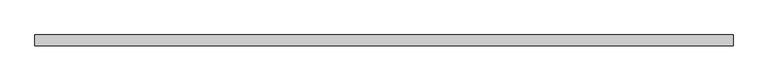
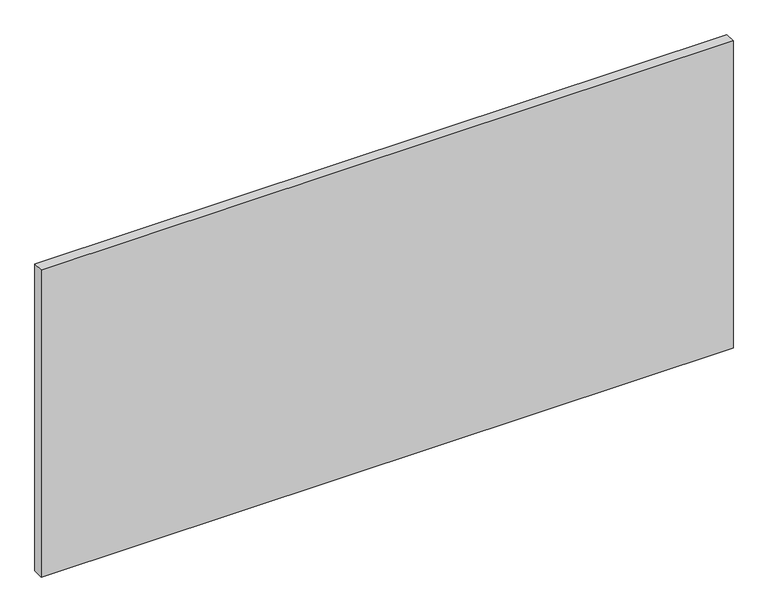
"""IFC4 building model written with IfcOpenShell, lengths in millimetres: plate geometry, 系统嵌板 : 玻璃."""

import ifcopenshell
import ifcopenshell.guid

model = None  # the IFC model being written
_history = None  # IfcOwnerHistory: only IFC2X3 demands one
_inside = {}  # id of a spatial element -> (the spatial element, [elements in it])
_under = {}  # id of a project, library or spatial element -> (it, [spatial elements below it])
_declared = {}  # id of a project -> (the project, [libraries it declares])
_typed = {}  # id of a type object -> (the type object, [elements of that type])
_made_of = {}  # id of a material, layer set ... -> (it, [elements and type objects made of it])


def new_model(schema):
    """Start an empty IFC model of exactly this schema.

    Asked for "IFC4X3", IfcOpenShell would pick the latest addendum, in which some entities
    have other attributes; the version numbers below select the first issue.
    IFC2X3 requires an IfcOwnerHistory on every rooted entity: one is made here for all.
    """
    global model, _history
    if schema == "IFC4X3":
        model = ifcopenshell.file(schema_version=(4, 3, 0, 0))
    else:
        model = ifcopenshell.file(schema=schema)
    _inside.clear()
    _under.clear()
    _declared.clear()
    _typed.clear()
    _made_of.clear()
    _history = None
    if model.schema == "IFC2X3":
        org = make("IfcOrganization", Name="unknown")
        user = make(
            "IfcPersonAndOrganization",
            ThePerson=make("IfcPerson", FamilyName="unknown"),
            TheOrganization=org,
        )
        app = make(
            "IfcApplication",
            ApplicationDeveloper=org,
            Version="unknown",
            ApplicationFullName="unknown",
            ApplicationIdentifier="unknown",
        )
        _history = make(
            "IfcOwnerHistory",
            OwningUser=user,
            OwningApplication=app,
            ChangeAction="ADDED",
            CreationDate=0,
        )
    return model


def make(cls, **values):
    """One entity of the class cls with the attributes given. An attribute that is None is left unset."""
    return model.create_entity(
        cls, **{name: value for name, value in values.items() if value is not None}
    )


def rooted(cls, **values):
    """An entity with a GlobalId (a new one), such as an element, a storey or a relation."""
    return make(cls, GlobalId=ifcopenshell.guid.new(), OwnerHistory=_history, **values)


def si_unit(unit_type, name, prefix=None):
    """IfcSIUnit, for example si_unit("LENGTHUNIT", "METRE", prefix="MILLI")."""
    return make("IfcSIUnit", UnitType=unit_type, Prefix=prefix, Name=name)


def assignment(units):
    """IfcUnitAssignment: the units of a project."""
    return None if units is None else make("IfcUnitAssignment", Units=units)


def point(xyz):
    """IfcCartesianPoint."""
    return None if xyz is None else make("IfcCartesianPoint", Coordinates=xyz)


def direction(xyz):
    """IfcDirection."""
    return None if xyz is None else make("IfcDirection", DirectionRatios=xyz)


def frame(location, z_axis=None, x_axis=None):
    """IfcAxis2Placement3D, a coordinate frame: its origin and axes. An axis left out is left unset."""
    return make(
        "IfcAxis2Placement3D",
        Location=point(location),
        Axis=direction(z_axis),
        RefDirection=direction(x_axis),
    )


def origin():
    """The frame at (0, 0, 0) with its axes left unset."""
    return frame((0.0, 0.0, 0.0))


def origin_with_axes():
    """The frame at (0, 0, 0) with the z axis (0, 0, 1) and the x axis (1, 0, 0) written out."""
    return frame((0.0, 0.0, 0.0), z_axis=(0.0, 0.0, 1.0), x_axis=(1.0, 0.0, 0.0))


def place(relative_to, where):
    """IfcLocalPlacement: puts the frame where relative to a parent placement (None: the world)."""
    return make(
        "IfcLocalPlacement", PlacementRelTo=relative_to, RelativePlacement=where
    )


def context(
    kind, dimensions, precision=None, world=None, true_north=None, identifier=None
):
    """IfcGeometricRepresentationContext, for example the 3D "Model" context."""
    return make(
        "IfcGeometricRepresentationContext",
        ContextIdentifier=identifier,
        ContextType=kind,
        CoordinateSpaceDimension=dimensions,
        Precision=precision,
        WorldCoordinateSystem=world,
        TrueNorth=true_north,
    )


def project(units=None, contexts=None):
    """IfcProject with its units and contexts."""
    return rooted(
        "IfcProject",
        Name="project",
        RepresentationContexts=contexts,
        UnitsInContext=assignment(units),
    )


def spatial(cls, under=None, at=None, **own):
    """A site, building, storey or space (cls), placed at a placement, below another one or the project."""
    s = rooted(cls, ObjectPlacement=at, **own)
    if under is not None:
        _under.setdefault(under.id(), (under, []))[1].append(s)
    return s


def polyline(points):
    """IfcPolyline through the points."""
    return make("IfcPolyline", Points=[point(p) for p in points])


def outline(outer, holes=None, kind="AREA"):
    """IfcArbitraryClosedProfileDef: a profile drawn as a closed curve; with holes, ...WithVoids."""
    if holes is None:
        return make("IfcArbitraryClosedProfileDef", ProfileType=kind, OuterCurve=outer)
    return make(
        "IfcArbitraryProfileDefWithVoids",
        ProfileType=kind,
        OuterCurve=outer,
        InnerCurves=holes,
    )


def extrude(swept, where, along, depth):
    """IfcExtrudedAreaSolid: the profile swept, set in the frame where, extruded along a direction by depth."""
    return make(
        "IfcExtrudedAreaSolid",
        SweptArea=swept,
        Position=where,
        ExtrudedDirection=direction(along),
        Depth=depth,
    )


def shape(context_of_items, identifier, shape_type, items):
    """IfcShapeRepresentation: the items that make up one representation, for example the "Body"."""
    return make(
        "IfcShapeRepresentation",
        ContextOfItems=context_of_items,
        RepresentationIdentifier=identifier,
        RepresentationType=shape_type,
        Items=items,
    )


def source(mapping_origin, context_of_items, identifier, shape_type, items):
    """IfcRepresentationMap: a shape defined once, which mapped items show again and again."""
    return make(
        "IfcRepresentationMap",
        MappingOrigin=mapping_origin,
        MappedRepresentation=shape(context_of_items, identifier, shape_type, items),
    )


def transform(
    local_origin,
    x_axis=None,
    y_axis=None,
    z_axis=None,
    scale=None,
    scale2=None,
    scale3=None,
    uniform=True,
):
    """IfcCartesianTransformationOperator3D, or its non-uniform kind. x_axis, y_axis, z_axis: its Axis1, 2, 3."""
    if uniform:
        return make(
            "IfcCartesianTransformationOperator3D",
            Axis1=direction(x_axis),
            Axis2=direction(y_axis),
            LocalOrigin=point(local_origin),
            Scale=scale,
            Axis3=direction(z_axis),
        )
    return make(
        "IfcCartesianTransformationOperator3DnonUniform",
        Axis1=direction(x_axis),
        Axis2=direction(y_axis),
        LocalOrigin=point(local_origin),
        Scale=scale,
        Axis3=direction(z_axis),
        Scale2=scale2,
        Scale3=scale3,
    )


def mapped(mapping_source, mapping_target):
    """IfcMappedItem: shows the shape of a source again, moved by a transform."""
    return make(
        "IfcMappedItem", MappingSource=mapping_source, MappingTarget=mapping_target
    )


def made_of(thing, what):
    """Note that an element or type object is made of a material, layer set ...; save() writes the relation."""
    if what is not None:
        _made_of.setdefault(what.id(), (what, []))[1].append(thing)
    return thing


def element(
    cls,
    number,
    at=None,
    inside=None,
    cuts=None,
    type_object=None,
    material=None,
    context=None,
    identifier="Body",
    shape_type=None,
    held_by="IfcProductDefinitionShape",
    body=None,
    shapes=None,
    **own,
):
    """One element of the class cls, such as IfcWall. Its Tag is "e" and its number.

    at: its placement. inside: the storey or other place that contains it. cuts: it is an
    opening in that element (IfcRelVoidsElement). A single representation is given by context,
    identifier, shape_type and body (its items); several are given by shapes. held_by: the class
    of the entity that holds the representations. save() writes the other relations.
    """
    e = rooted(cls, Tag="e%d" % number, ObjectPlacement=at, **own)
    if body is not None:
        shapes = [shape(context, identifier, shape_type, body)]
    if shapes is not None:
        e.Representation = make(held_by, Representations=shapes)
    if inside is not None:
        _inside.setdefault(inside.id(), (inside, []))[1].append(e)
    if cuts is not None:
        rooted(
            "IfcRelVoidsElement", RelatingBuildingElement=cuts, RelatedOpeningElement=e
        )
    if type_object is not None:
        _typed.setdefault(type_object.id(), (type_object, []))[1].append(e)
    return made_of(e, material)


def aggregate(whole, parts):
    """IfcRelAggregates: a whole, such as a stair, and the parts it consists of."""
    return rooted("IfcRelAggregates", RelatingObject=whole, RelatedObjects=parts)


def save(model, path):
    """Write the relations noted so far, then the file.

    IfcRelAggregates (storeys below a building ...), IfcRelContainedInSpatialStructure (elements
    in a storey), IfcRelDefinesByType, IfcRelAssociatesMaterial and IfcRelDeclares: one each for
    every whole, place, type object, material and project.
    """
    for whole, parts in _under.values():
        aggregate(whole, parts)
    for where, things in _inside.values():
        rooted(
            "IfcRelContainedInSpatialStructure",
            RelatedElements=things,
            RelatingStructure=where,
        )
    for kind, things in _typed.values():
        rooted("IfcRelDefinesByType", RelatedObjects=things, RelatingType=kind)
    for what, things in _made_of.values():
        rooted("IfcRelAssociatesMaterial", RelatedObjects=things, RelatingMaterial=what)
    for by, libraries in _declared.values():
        rooted("IfcRelDeclares", RelatingContext=by, RelatedDefinitions=libraries)
    model.write(path)


def plate_476f0c40(model_context):
    return source(origin(), model_context, "Body", "SweptSolid", [
        extrude(outline(polyline([(820.0, -12.5), (-820.0, -12.5), (-820.0, 12.5), (820.0, 12.5), (820.0, -12.5)])), origin_with_axes(), (0.0, 0.0, 1.0), 770.0),
    ])


if __name__ == "__main__":
    model = new_model("IFC4")
    model_context = context("Model", 3, world=origin())
    ifc_project = project(units=[si_unit("LENGTHUNIT", "METRE", prefix="MILLI")], contexts=[model_context])
    site = spatial("IfcSite", under=ifc_project)
    building = spatial("IfcBuilding", under=site)
    placement = place(None, origin())
    plate_shape = plate_476f0c40(model_context)
    element("IfcPlate", 1, ObjectType="系统嵌板 : 玻璃", at=placement, inside=building, context=model_context, shape_type="MappedRepresentation", body=[
        mapped(plate_shape, transform((0.0, 0.0, 0.0), x_axis=(1.0, 0.0, 0.0), y_axis=(0.0, 1.0, 0.0), z_axis=(0.0, 0.0, 1.0))),
    ])
    save(model, "model.ifc")
